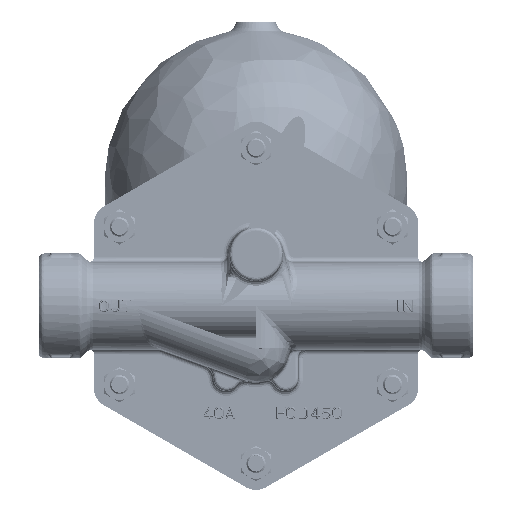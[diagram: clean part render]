
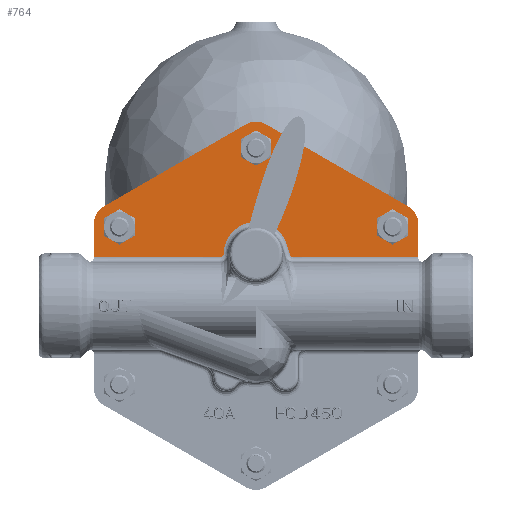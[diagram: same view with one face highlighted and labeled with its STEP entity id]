
A CAD part, front view. The second image highlights one B-rep face of the part: STEP entity #764.
In plain terms, the highlighted planar face has unit normal (0, -1, 0) as drawn and (0, 0, 1) by its records, which use the part's own axes.
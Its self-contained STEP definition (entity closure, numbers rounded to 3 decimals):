
#764=ADVANCED_FACE('',(#4859),#4858,.T.);
#4858=PLANE('',#15579);
#4859=FACE_OUTER_BOUND('',#15580,.T.);
#15576=CARTESIAN_POINT('',(64.931,-63.703,-15.));
#15577=DIRECTION('',(0.,0.,1.));
#15578=DIRECTION('',(0.447,0.894,0.));
#15579=AXIS2_PLACEMENT_3D('',#15576,#15577,#15578);
#15580=EDGE_LOOP('',(#30389,#30390,#30391,#30392,#30393,#30394,#30395,#30396,#30397,#30398,#30399,#30400,#30401));
#30389=ORIENTED_EDGE('',*,*,#33859,.F.);
#30390=ORIENTED_EDGE('',*,*,#33862,.F.);
#30391=ORIENTED_EDGE('',*,*,#33893,.F.);
#30392=ORIENTED_EDGE('',*,*,#34079,.F.);
#30393=ORIENTED_EDGE('',*,*,#33921,.F.);
#30394=ORIENTED_EDGE('',*,*,#33888,.T.);
#30395=ORIENTED_EDGE('',*,*,#33945,.F.);
#30396=ORIENTED_EDGE('',*,*,#34163,.F.);
#30397=ORIENTED_EDGE('',*,*,#34164,.F.);
#30398=ORIENTED_EDGE('',*,*,#34151,.F.);
#30399=ORIENTED_EDGE('',*,*,#34105,.F.);
#30400=ORIENTED_EDGE('',*,*,#33865,.F.);
#30401=ORIENTED_EDGE('',*,*,#33863,.F.);
#33859=EDGE_CURVE('',#44761,#44768,#44769,.T.);
#33862=EDGE_CURVE('',#44781,#44761,#44788,.T.);
#33863=EDGE_CURVE('',#44768,#44794,#44795,.T.);
#33865=EDGE_CURVE('',#44794,#44807,#44808,.T.);
#33888=EDGE_CURVE('',#44960,#44953,#44961,.T.);
#33893=EDGE_CURVE('',#44986,#44781,#44993,.T.);
#33921=EDGE_CURVE('',#44960,#45176,#45177,.T.);
#33945=EDGE_CURVE('',#45327,#44953,#45334,.T.);
#34079=EDGE_CURVE('',#45176,#44986,#46216,.T.);
#34105=EDGE_CURVE('',#44807,#46376,#46377,.T.);
#34151=EDGE_CURVE('',#46376,#46669,#46682,.T.);
#34163=EDGE_CURVE('',#46759,#45327,#46760,.T.);
#34164=EDGE_CURVE('',#46669,#46759,#46766,.T.);
#44761=VERTEX_POINT('',#60285);
#44768=VERTEX_POINT('',#60290);
#44769=(BOUNDED_CURVE() B_SPLINE_CURVE(1,(#60291,#60292),.UNSPECIFIED.,.F.,.F.) B_SPLINE_CURVE_WITH_KNOTS((2,2),(0.,1.),.UNSPECIFIED.) CURVE() GEOMETRIC_REPRESENTATION_ITEM() RATIONAL_B_SPLINE_CURVE((1.,1.)) REPRESENTATION_ITEM('') );
#44781=VERTEX_POINT('',#60298);
#44788=LINE('',#60302,#60303);
#44794=VERTEX_POINT('',#60305);
#44795=(BOUNDED_CURVE() B_SPLINE_CURVE(3,(#60306,#60307,#60308,#60309),.UNSPECIFIED.,.F.,.F.) B_SPLINE_CURVE_WITH_KNOTS((4,4),(0.008,1.),.UNSPECIFIED.) CURVE() GEOMETRIC_REPRESENTATION_ITEM() RATIONAL_B_SPLINE_CURVE((1.,1.,1.,1.)) REPRESENTATION_ITEM('') );
#44807=VERTEX_POINT('',#60320);
#44808=LINE('',#60321,#60322);
#44953=VERTEX_POINT('',#60434);
#44960=VERTEX_POINT('',#60438);
#44961=LINE('',#60439,#60440);
#44986=VERTEX_POINT('',#60452);
#44993=(BOUNDED_CURVE() B_SPLINE_CURVE(2,(#60456,#60457,#60458),.UNSPECIFIED.,.F.,.F.) B_SPLINE_CURVE_WITH_KNOTS((3,3),(-6.806,-5.76),.UNSPECIFIED.) CURVE() GEOMETRIC_REPRESENTATION_ITEM() RATIONAL_B_SPLINE_CURVE((1.,0.866,1.)) REPRESENTATION_ITEM('') );
#45176=VERTEX_POINT('',#60600);
#45177=(BOUNDED_CURVE() B_SPLINE_CURVE(2,(#60601,#60602,#60603),.UNSPECIFIED.,.F.,.F.) B_SPLINE_CURVE_WITH_KNOTS((3,3),(-6.806,-5.76),.UNSPECIFIED.) CURVE() GEOMETRIC_REPRESENTATION_ITEM() RATIONAL_B_SPLINE_CURVE((1.,0.866,1.)) REPRESENTATION_ITEM('') );
#45327=VERTEX_POINT('',#60692);
#45334=(BOUNDED_CURVE() B_SPLINE_CURVE(2,(#60696,#60697,#60698),.UNSPECIFIED.,.F.,.F.) B_SPLINE_CURVE_WITH_KNOTS((3,3),(-6.806,-5.76),.UNSPECIFIED.) CURVE() GEOMETRIC_REPRESENTATION_ITEM() RATIONAL_B_SPLINE_CURVE((1.,0.866,1.)) REPRESENTATION_ITEM('') );
#46216=LINE('',#61610,#61611);
#46376=VERTEX_POINT('',#61717);
#46377=CIRCLE('',#61721,20.115);
#46669=VERTEX_POINT('',#62102);
#46682=(BOUNDED_CURVE() B_SPLINE_CURVE(3,(#62119,#62120,#62121,#62122),.UNSPECIFIED.,.F.,.F.) B_SPLINE_CURVE_WITH_KNOTS((4,4),(0.,1.),.UNSPECIFIED.) CURVE() GEOMETRIC_REPRESENTATION_ITEM() RATIONAL_B_SPLINE_CURVE((1.,1.,1.,1.)) REPRESENTATION_ITEM('') );
#46759=VERTEX_POINT('',#62206);
#46760=LINE('',#62207,#62208);
#46766=LINE('',#62210,#62211);
#60285=CARTESIAN_POINT('',(100.764,30.325,-15.));
#60290=CARTESIAN_POINT('',(22.973,30.325,-15.));
#60291=CARTESIAN_POINT('',(100.764,30.325,-15.));
#60292=CARTESIAN_POINT('',(22.973,30.325,-15.));
#60298=CARTESIAN_POINT('',(100.764,51.255,-15.));
#60302=CARTESIAN_POINT('',(100.764,51.255,-15.));
#60303=VECTOR('',#60304,20.93);
#60304=DIRECTION('',(0.,-1.,0.));
#60305=CARTESIAN_POINT('',(21.067,31.752,-15.));
#60306=CARTESIAN_POINT('',(22.973,30.325,-15.));
#60307=CARTESIAN_POINT('',(22.107,30.319,-15.));
#60308=CARTESIAN_POINT('',(21.298,30.929,-15.));
#60309=CARTESIAN_POINT('',(21.066,31.752,-15.));
#60320=CARTESIAN_POINT('',(19.273,37.758,-15.));
#60321=CARTESIAN_POINT('',(21.067,31.752,-15.));
#60322=VECTOR('',#60323,6.268);
#60323=DIRECTION('',(-0.286,0.958,0.));
#60434=CARTESIAN_POINT('',(-94.77,61.637,-15.));
#60438=CARTESIAN_POINT('',(-5.994,112.892,-15.));
#60439=CARTESIAN_POINT('',(-5.994,112.892,-15.));
#60440=VECTOR('',#60441,102.509);
#60441=DIRECTION('',(-0.866,-0.5,0.));
#60452=CARTESIAN_POINT('',(94.77,61.637,-15.));
#60456=CARTESIAN_POINT('',(94.77,61.637,-15.));
#60457=CARTESIAN_POINT('',(100.764,58.176,-15.));
#60458=CARTESIAN_POINT('',(100.764,51.255,-15.));
#60600=CARTESIAN_POINT('',(5.994,112.892,-15.));
#60601=CARTESIAN_POINT('',(-5.994,112.892,-15.));
#60602=CARTESIAN_POINT('',(0.,116.352,-15.));
#60603=CARTESIAN_POINT('',(5.994,112.892,-15.));
#60692=CARTESIAN_POINT('',(-100.764,51.255,-15.));
#60696=CARTESIAN_POINT('',(-100.764,51.255,-15.));
#60697=CARTESIAN_POINT('',(-100.764,58.176,-15.));
#60698=CARTESIAN_POINT('',(-94.77,61.637,-15.));
#61610=CARTESIAN_POINT('',(5.994,112.892,-15.));
#61611=VECTOR('',#61612,102.509);
#61612=DIRECTION('',(0.866,-0.5,0.));
#61717=CARTESIAN_POINT('',(-20.113,32.295,-15.));
#61718=CARTESIAN_POINT('',(0.,32.,-15.));
#61719=DIRECTION('',(0.,0.,1.));
#61720=DIRECTION('',(-1.,0.,0.));
#61721=AXIS2_PLACEMENT_3D('',#61718,#61719,#61720);
#62102=CARTESIAN_POINT('',(-22.112,30.325,-15.));
#62119=CARTESIAN_POINT('',(-20.112,32.295,-15.));
#62120=CARTESIAN_POINT('',(-20.099,31.237,-15.));
#62121=CARTESIAN_POINT('',(-21.054,30.296,-15.));
#62122=CARTESIAN_POINT('',(-22.112,30.324,-15.));
#62206=CARTESIAN_POINT('',(-100.764,30.325,-15.));
#62207=CARTESIAN_POINT('',(-100.764,30.325,-15.));
#62208=VECTOR('',#62209,20.93);
#62209=DIRECTION('',(0.,1.,0.));
#62210=CARTESIAN_POINT('',(-22.112,30.325,-15.));
#62211=VECTOR('',#62212,78.652);
#62212=DIRECTION('',(-1.,0.,0.));
